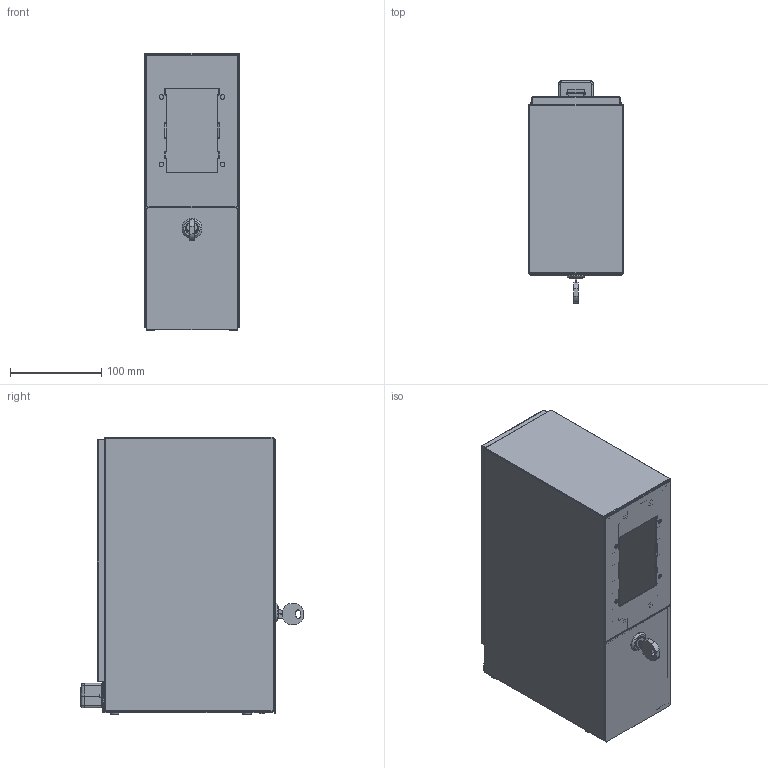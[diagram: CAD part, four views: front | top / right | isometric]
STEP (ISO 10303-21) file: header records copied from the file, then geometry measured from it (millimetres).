
FILE_DESCRIPTION (( 'STEP AP214' ), '1' );
FILE_NAME ('0390N009-00-00_Smart_Payment_Box(Nayax).STEP', '2018-04-27T07:12:58', ( '' ), ( '' ), 'SwSTEP 2.0', 'SolidWorks 2015', '' );
FILE_SCHEMA (( 'AUTOMOTIVE_DESIGN' ));
Length unit declared in the file: millimetre
Products named in the file (14): 0390N107-00-00_T黵e_Halteblech-1; 0390N106-00-00_T黵e_Deckblech-1; 0390N100-00-00_Gehaeuse_Mantelblech; Elastikpuffer_UCHI-1; 0390N108-00-01_Backcover_modified_GII-1; 0390N102-00-01_Bodenblech-1; DeviceFrogDummy; Cover_Änderungsanfrage 20150915; PAB001018_COVER-1; 0390N009-00-00_Smart_Payment_Box(Nayax); 0390N110-00-00_Frontblech_Nayax; pan head cross recess screw_iso(ISO 7045 - M4 x 6 - Z --- 6N); hex nut style 1 gradeab_iso(Hexagon Nut ISO - 4032 - M4 - W - N); Schloss-1
Assembly tree (20 placements, depth 3):
  0390N009-00-00_Smart_Payment_Box(Nayax)
    DeviceFrogDummy
      PAB001018_COVER-1
      Cover_Änderungsanfrage 20150915
    0390N102-00-01_Bodenblech-1
    0390N108-00-01_Backcover_modified_GII-1
    Elastikpuffer_UCHI-1  x4
    0390N100-00-00_Gehaeuse_Mantelblech
    0390N106-00-00_T黵e_Deckblech-1
    0390N107-00-00_T黵e_Halteblech-1
    Schloss-1
    hex nut style 1 gradeab_iso(Hexagon Nut ISO - 4032 - M4 - W - N)  x4
    pan head cross recess screw_iso(ISO 7045 - M4 x 6 - Z --- 6N)  x2
    0390N110-00-00_Frontblech_Nayax
Bounding box: 104 x 243.81 x 304 mm (x, y, z)
Volume: 280308.2 mm3; surface area: 547382 mm2
Topology: 22 solids, 22 shells, 2366 faces, 6243 edges, 3952 vertices
Faces by surface type: plane 1351, cylinder 737, bspline 176, cone 71, torus 29, sphere 2
Full cylindrical faces by diameter (mm): 3 x2, 3.2 x2, 3.3 x4, 4 x10, 4.5 x4, 5 x12, 6 x6, 7 x4, 8 x8, 10.1 x4, 12.5 x1, 17 x1, 19 x1
Entity records: 78393 total; most frequent: CARTESIAN_POINT 22535, ORIENTED_EDGE 11828, DIRECTION 10406, EDGE_CURVE 5914, VERTEX_POINT 3779, LINE 3766, VECTOR 3766, AXIS2_PLACEMENT_3D 3320
